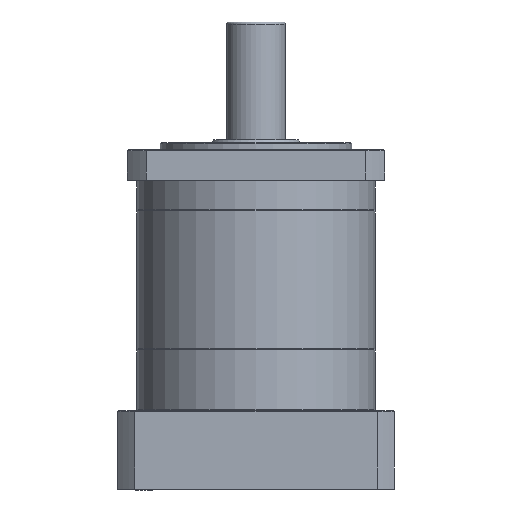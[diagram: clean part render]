
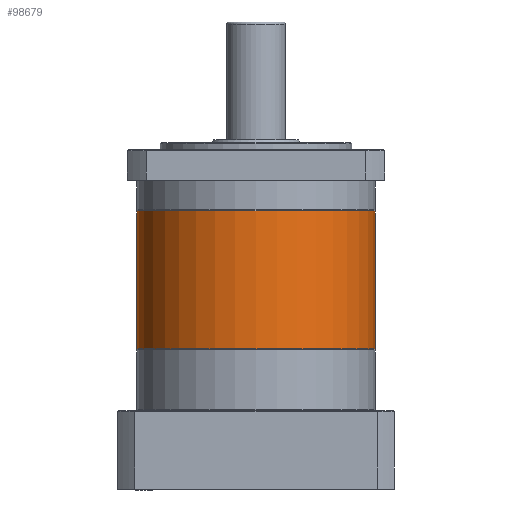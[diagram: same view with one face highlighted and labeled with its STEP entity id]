
A CAD part, front view. The second image highlights one B-rep face of the part: STEP entity #98679.
In plain terms, the highlighted cylindrical face has radius 81 mm (diameter 162 mm), a partial arc.
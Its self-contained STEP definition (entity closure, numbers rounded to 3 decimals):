
#566 = VERTEX_POINT ( 'NONE', #89673 ) ;
#1991 = EDGE_CURVE ( 'NONE', #61861, #21629, #27275, .T. ) ;
#8961 = DIRECTION ( 'NONE',  ( 1., 0., 0. ) ) ;
#9449 = CARTESIAN_POINT ( 'NONE',  ( 248.887, 106.757, 74.225 ) ) ;
#10260 = DIRECTION ( 'NONE',  ( 0., 0., 1. ) ) ;
#10374 = VECTOR ( 'NONE', #77703, 1000. ) ;
#15233 = EDGE_LOOP ( 'NONE', ( #84739, #79131, #66627, #88977 ) ) ;
#21629 = VERTEX_POINT ( 'NONE', #34537 ) ;
#25638 = AXIS2_PLACEMENT_3D ( 'NONE', #86340, #39311, #8961 ) ;
#27039 = EDGE_CURVE ( 'NONE', #78665, #566, #78337, .T. ) ;
#27275 = LINE ( 'NONE', #100204, #10374 ) ;
#31467 = DIRECTION ( 'NONE',  ( 0., 0., -1. ) ) ;
#32477 = CARTESIAN_POINT ( 'NONE',  ( 167.887, 106.757, 167.725 ) ) ;
#34537 = CARTESIAN_POINT ( 'NONE',  ( 86.887, 106.757, 167.725 ) ) ;
#39311 = DIRECTION ( 'NONE',  ( 0., 0., 1. ) ) ;
#39368 = CARTESIAN_POINT ( 'NONE',  ( 86.887, 106.757, 74.225 ) ) ;
#39914 = DIRECTION ( 'NONE',  ( 1., 0., 0. ) ) ;
#40559 = CYLINDRICAL_SURFACE ( 'NONE', #25638, 81. ) ;
#41242 = CIRCLE ( 'NONE', #95174, 81. ) ;
#41485 = CIRCLE ( 'NONE', #87357, 81. ) ;
#49202 = DIRECTION ( 'NONE',  ( 1., 0., 0. ) ) ;
#49504 = EDGE_CURVE ( 'NONE', #61861, #78665, #41242, .T. ) ;
#61145 = FACE_OUTER_BOUND ( 'NONE', #15233, .T. ) ;
#61861 = VERTEX_POINT ( 'NONE', #39368 ) ;
#66627 = ORIENTED_EDGE ( 'NONE', *, *, #27039, .T. ) ;
#68670 = VECTOR ( 'NONE', #10260, 1000. ) ;
#71011 = EDGE_CURVE ( 'NONE', #566, #21629, #41485, .T. ) ;
#77703 = DIRECTION ( 'NONE',  ( 0., 0., 1. ) ) ;
#78337 = LINE ( 'NONE', #94681, #68670 ) ;
#78665 = VERTEX_POINT ( 'NONE', #9449 ) ;
#79131 = ORIENTED_EDGE ( 'NONE', *, *, #49504, .T. ) ;
#80041 = DIRECTION ( 'NONE',  ( 0., 0., 1. ) ) ;
#84739 = ORIENTED_EDGE ( 'NONE', *, *, #1991, .F. ) ;
#86340 = CARTESIAN_POINT ( 'NONE',  ( 167.887, 106.757, 73.725 ) ) ;
#87357 = AXIS2_PLACEMENT_3D ( 'NONE', #32477, #31467, #39914 ) ;
#88977 = ORIENTED_EDGE ( 'NONE', *, *, #71011, .T. ) ;
#89673 = CARTESIAN_POINT ( 'NONE',  ( 248.887, 106.757, 167.725 ) ) ;
#94681 = CARTESIAN_POINT ( 'NONE',  ( 248.887, 106.757, 73.725 ) ) ;
#95174 = AXIS2_PLACEMENT_3D ( 'NONE', #95482, #80041, #49202 ) ;
#95482 = CARTESIAN_POINT ( 'NONE',  ( 167.887, 106.757, 74.225 ) ) ;
#98679 = ADVANCED_FACE ( 'NONE', ( #61145 ), #40559, .T. ) ;
#100204 = CARTESIAN_POINT ( 'NONE',  ( 86.887, 106.757, 73.725 ) ) ;
